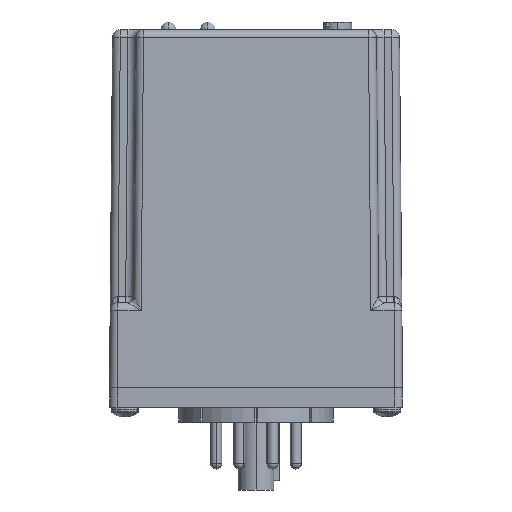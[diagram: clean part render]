
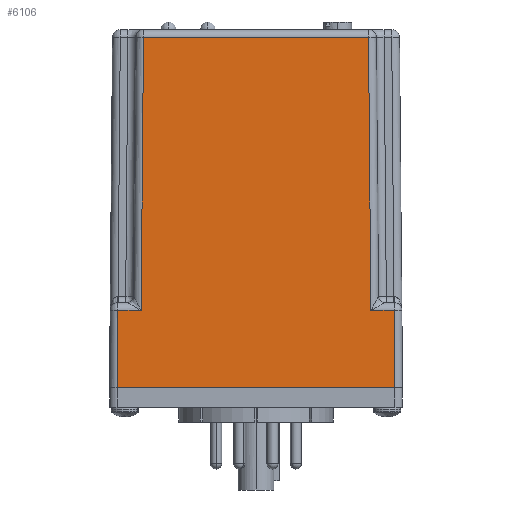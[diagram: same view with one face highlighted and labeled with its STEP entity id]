
A CAD part, left-side view. The second image highlights one B-rep face of the part: STEP entity #6106.
In plain terms, the highlighted planar face has unit normal (-1, 0, 0.009).
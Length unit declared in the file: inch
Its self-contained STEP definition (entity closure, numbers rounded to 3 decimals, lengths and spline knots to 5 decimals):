
#5872 = EDGE_LOOP ( 'NONE', ( #6107, #5998, #6096, #6099, #6087, #6094, #6091, #6084 ) ) ;
#5998 = ORIENTED_EDGE ( 'NONE', *, *, #6166, .T. ) ;
#6079 = EDGE_CURVE ( 'NONE', #6090, #6101, #14211, .T. ) ;
#6081 = EDGE_CURVE ( 'NONE', #6100, #6082, #14207, .T. ) ;
#6082 = VERTEX_POINT ( 'NONE', #14203 ) ;
#6083 = EDGE_CURVE ( 'NONE', #6167, #6097, #14202, .T. ) ;
#6084 = ORIENTED_EDGE ( 'NONE', *, *, #6093, .T. ) ;
#6086 = EDGE_CURVE ( 'NONE', #6097, #6100, #14198, .T. ) ;
#6087 = ORIENTED_EDGE ( 'NONE', *, *, #6081, .T. ) ;
#6090 = VERTEX_POINT ( 'NONE', #14253 ) ;
#6091 = ORIENTED_EDGE ( 'NONE', *, *, #6079, .T. ) ;
#6093 = EDGE_CURVE ( 'NONE', #6101, #6109, #14252, .T. ) ;
#6094 = ORIENTED_EDGE ( 'NONE', *, *, #6095, .T. ) ;
#6095 = EDGE_CURVE ( 'NONE', #6082, #6090, #14248, .T. ) ;
#6096 = ORIENTED_EDGE ( 'NONE', *, *, #6083, .T. ) ;
#6097 = VERTEX_POINT ( 'NONE', #14244 ) ;
#6099 = ORIENTED_EDGE ( 'NONE', *, *, #6086, .T. ) ;
#6100 = VERTEX_POINT ( 'NONE', #14242 ) ;
#6101 = VERTEX_POINT ( 'NONE', #14241 ) ;
#6106 = ADVANCED_FACE ( 'NONE', ( #14290 ), #14289, .T. ) ;
#6107 = ORIENTED_EDGE ( 'NONE', *, *, #6108, .T. ) ;
#6108 = EDGE_CURVE ( 'NONE', #6109, #6110, #14284, .T. ) ;
#6109 = VERTEX_POINT ( 'NONE', #14280 ) ;
#6110 = VERTEX_POINT ( 'NONE', #14279 ) ;
#6166 = EDGE_CURVE ( 'NONE', #6110, #6167, #14373, .T. ) ;
#6167 = VERTEX_POINT ( 'NONE', #14369 ) ;
#14195 = DIRECTION ( 'NONE',  ( 0., -1., 0. ) ) ;
#14196 = VECTOR ( 'NONE', #14195, 39.37008 ) ;
#14197 = CARTESIAN_POINT ( 'NONE',  ( -0.875, -1.1875, 0. ) ) ;
#14198 = LINE ( 'NONE', #14197, #14196 ) ;
#14199 = DIRECTION ( 'NONE',  ( -0.009, 0.009, -1. ) ) ;
#14200 = VECTOR ( 'NONE', #14199, 39.37008 ) ;
#14201 = CARTESIAN_POINT ( 'NONE',  ( -0.87482, 1.12433, 0.02017 ) ) ;
#14202 = LINE ( 'NONE', #14201, #14200 ) ;
#14203 = CARTESIAN_POINT ( 'NONE',  ( -0.86954, -1.11904, 0.62555 ) ) ;
#14204 = DIRECTION ( 'NONE',  ( 0.009, 0.009, 1. ) ) ;
#14205 = VECTOR ( 'NONE', #14204, 39.37008 ) ;
#14206 = CARTESIAN_POINT ( 'NONE',  ( -0.875, -1.12451, -0.00055 ) ) ;
#14207 = LINE ( 'NONE', #14206, #14205 ) ;
#14208 = DIRECTION ( 'NONE',  ( 0.009, 0.009, 1. ) ) ;
#14209 = VECTOR ( 'NONE', #14208, 39.37008 ) ;
#14210 = CARTESIAN_POINT ( 'NONE',  ( -0.87502, -0.93652, -0.00219 ) ) ;
#14211 = LINE ( 'NONE', #14210, #14209 ) ;
#14241 = CARTESIAN_POINT ( 'NONE',  ( -0.85024, -0.91174, 2.83755 ) ) ;
#14242 = CARTESIAN_POINT ( 'NONE',  ( -0.875, -1.1245, 0. ) ) ;
#14244 = CARTESIAN_POINT ( 'NONE',  ( -0.875, 1.1245, 0. ) ) ;
#14245 = DIRECTION ( 'NONE',  ( 0., 1., 0. ) ) ;
#14246 = VECTOR ( 'NONE', #14245, 39.37008 ) ;
#14247 = CARTESIAN_POINT ( 'NONE',  ( -0.86954, -0.9305, 0.62555 ) ) ;
#14248 = LINE ( 'NONE', #14247, #14246 ) ;
#14249 = DIRECTION ( 'NONE',  ( 0., 1., 0. ) ) ;
#14250 = VECTOR ( 'NONE', #14249, 39.37008 ) ;
#14251 = CARTESIAN_POINT ( 'NONE',  ( -0.85024, 0.91119, 2.83755 ) ) ;
#14252 = LINE ( 'NONE', #14251, #14250 ) ;
#14253 = CARTESIAN_POINT ( 'NONE',  ( -0.86954, -0.93104, 0.62555 ) ) ;
#14279 = CARTESIAN_POINT ( 'NONE',  ( -0.86954, 0.93104, 0.62555 ) ) ;
#14280 = CARTESIAN_POINT ( 'NONE',  ( -0.85024, 0.91174, 2.83755 ) ) ;
#14281 = DIRECTION ( 'NONE',  ( -0.009, 0.009, -1. ) ) ;
#14282 = VECTOR ( 'NONE', #14281, 39.37008 ) ;
#14283 = CARTESIAN_POINT ( 'NONE',  ( -0.87484, 0.93634, 0.01853 ) ) ;
#14284 = LINE ( 'NONE', #14283, #14282 ) ;
#14285 = DIRECTION ( 'NONE',  ( 0.009, 0., 1. ) ) ;
#14286 = DIRECTION ( 'NONE',  ( -1., 0., 0.009 ) ) ;
#14287 = CARTESIAN_POINT ( 'NONE',  ( -0.875, -1.1875, 0. ) ) ;
#14288 = AXIS2_PLACEMENT_3D ( 'NONE', #14287, #14286, #14285 ) ;
#14289 = PLANE ( 'NONE',  #14288 ) ;
#14290 = FACE_OUTER_BOUND ( 'NONE', #5872, .T. ) ;
#14369 = CARTESIAN_POINT ( 'NONE',  ( -0.86954, 1.11904, 0.62555 ) ) ;
#14370 = DIRECTION ( 'NONE',  ( 0., 1., 0. ) ) ;
#14371 = VECTOR ( 'NONE', #14370, 39.37008 ) ;
#14372 = CARTESIAN_POINT ( 'NONE',  ( -0.86954, 1.1185, 0.62555 ) ) ;
#14373 = LINE ( 'NONE', #14372, #14371 ) ;
